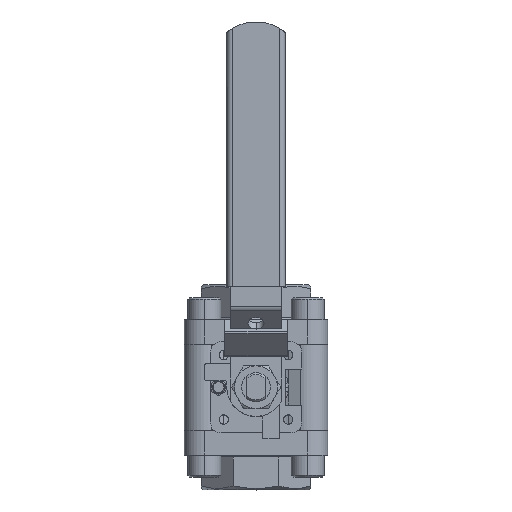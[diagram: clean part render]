
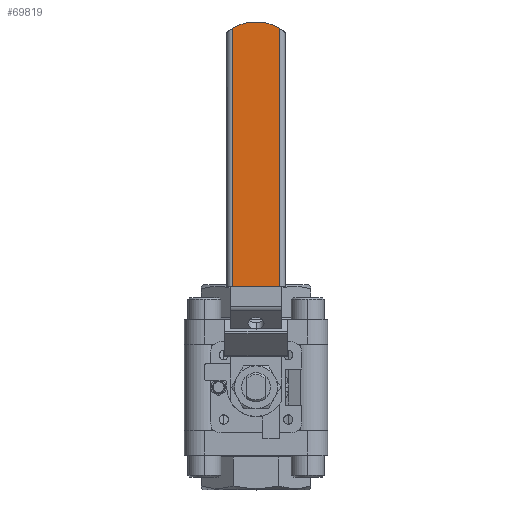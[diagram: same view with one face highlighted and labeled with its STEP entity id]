
A CAD part, top view. The second image highlights one B-rep face of the part: STEP entity #69819.
In plain terms, the highlighted planar face has unit normal (0, 0, 1).
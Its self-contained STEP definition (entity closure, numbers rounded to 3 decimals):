
#68215 = PLANE('',#68216);
#68216 = AXIS2_PLACEMENT_3D('',#68217,#68218,#68219);
#68217 = CARTESIAN_POINT('',(0.524,106.131,
    137.93));
#68218 = DIRECTION('',(0.,1.,0.));
#68219 = DIRECTION('',(-1.,0.,0.));
#68800 = CYLINDRICAL_SURFACE('',#68801,25.);
#68801 = AXIS2_PLACEMENT_3D('',#68802,#68803,#68804);
#68802 = CARTESIAN_POINT('',(-15.476,226.131,
    137.93));
#68803 = DIRECTION('',(0.,0.,1.));
#68804 = DIRECTION('',(-1.,0.,0.));
#68828 = CYLINDRICAL_SURFACE('',#68829,3.);
#68829 = AXIS2_PLACEMENT_3D('',#68830,#68831,#68832);
#68830 = CARTESIAN_POINT('',(-2.476,106.131,
    142.93));
#68831 = DIRECTION('',(0.,-1.,0.));
#68832 = DIRECTION('',(1.,0.,0.));
#69341 = CYLINDRICAL_SURFACE('',#69342,3.);
#69342 = AXIS2_PLACEMENT_3D('',#69343,#69344,#69345);
#69343 = CARTESIAN_POINT('',(-28.476,106.131,
    142.93));
#69344 = DIRECTION('',(0.,1.,0.));
#69345 = DIRECTION('',(-1.,0.,0.));
#69400 = VERTEX_POINT('',#69401);
#69401 = CARTESIAN_POINT('',(-2.476,106.131,
    145.93));
#69425 = VERTEX_POINT('',#69426);
#69426 = CARTESIAN_POINT('',(-2.476,247.485,
    145.93));
#69548 = EDGE_CURVE('',#69425,#69400,#69549,.T.);
#69549 = SURFACE_CURVE('',#69550,(#69554,#69561),.PCURVE_S1.);
#69550 = LINE('',#69551,#69552);
#69551 = CARTESIAN_POINT('',(-2.476,226.131,
    145.93));
#69552 = VECTOR('',#69553,1.);
#69553 = DIRECTION('',(0.,-1.,0.));
#69554 = PCURVE('',#68828,#69555);
#69555 = DEFINITIONAL_REPRESENTATION('',(#69556),#69560);
#69556 = LINE('',#69557,#69558);
#69557 = CARTESIAN_POINT('',(1.571,-120.));
#69558 = VECTOR('',#69559,1.);
#69559 = DIRECTION('',(0.,1.));
#69560 = ( GEOMETRIC_REPRESENTATION_CONTEXT(2) 
PARAMETRIC_REPRESENTATION_CONTEXT() REPRESENTATION_CONTEXT('2D SPACE',''
  ) );
#69561 = PCURVE('',#69562,#69567);
#69562 = PLANE('',#69563);
#69563 = AXIS2_PLACEMENT_3D('',#69564,#69565,#69566);
#69564 = CARTESIAN_POINT('',(-15.476,226.131,
    145.93));
#69565 = DIRECTION('',(0.,0.,-1.));
#69566 = DIRECTION('',(1.,0.,0.));
#69567 = DEFINITIONAL_REPRESENTATION('',(#69568),#69572);
#69568 = LINE('',#69569,#69570);
#69569 = CARTESIAN_POINT('',(13.,0.));
#69570 = VECTOR('',#69571,1.);
#69571 = DIRECTION('',(0.,1.));
#69572 = ( GEOMETRIC_REPRESENTATION_CONTEXT(2) 
PARAMETRIC_REPRESENTATION_CONTEXT() REPRESENTATION_CONTEXT('2D SPACE',''
  ) );
#69590 = EDGE_CURVE('',#69400,#69591,#69593,.T.);
#69591 = VERTEX_POINT('',#69592);
#69592 = CARTESIAN_POINT('',(-28.476,106.131,
    145.93));
#69593 = SURFACE_CURVE('',#69594,(#69598,#69605),.PCURVE_S1.);
#69594 = LINE('',#69595,#69596);
#69595 = CARTESIAN_POINT('',(-15.476,106.131,
    145.93));
#69596 = VECTOR('',#69597,1.);
#69597 = DIRECTION('',(-1.,0.,0.));
#69598 = PCURVE('',#68215,#69599);
#69599 = DEFINITIONAL_REPRESENTATION('',(#69600),#69604);
#69600 = LINE('',#69601,#69602);
#69601 = CARTESIAN_POINT('',(16.,8.));
#69602 = VECTOR('',#69603,1.);
#69603 = DIRECTION('',(1.,0.));
#69604 = ( GEOMETRIC_REPRESENTATION_CONTEXT(2) 
PARAMETRIC_REPRESENTATION_CONTEXT() REPRESENTATION_CONTEXT('2D SPACE',''
  ) );
#69605 = PCURVE('',#69562,#69606);
#69606 = DEFINITIONAL_REPRESENTATION('',(#69607),#69611);
#69607 = LINE('',#69608,#69609);
#69608 = CARTESIAN_POINT('',(0.,120.));
#69609 = VECTOR('',#69610,1.);
#69610 = DIRECTION('',(-1.,0.));
#69611 = ( GEOMETRIC_REPRESENTATION_CONTEXT(2) 
PARAMETRIC_REPRESENTATION_CONTEXT() REPRESENTATION_CONTEXT('2D SPACE',''
  ) );
#69642 = VERTEX_POINT('',#69643);
#69643 = CARTESIAN_POINT('',(-28.476,247.485,
    145.93));
#69767 = EDGE_CURVE('',#69591,#69642,#69768,.T.);
#69768 = SURFACE_CURVE('',#69769,(#69773,#69780),.PCURVE_S1.);
#69769 = LINE('',#69770,#69771);
#69770 = CARTESIAN_POINT('',(-28.476,226.131,
    145.93));
#69771 = VECTOR('',#69772,1.);
#69772 = DIRECTION('',(0.,1.,0.));
#69773 = PCURVE('',#69341,#69774);
#69774 = DEFINITIONAL_REPRESENTATION('',(#69775),#69779);
#69775 = LINE('',#69776,#69777);
#69776 = CARTESIAN_POINT('',(1.571,120.));
#69777 = VECTOR('',#69778,1.);
#69778 = DIRECTION('',(0.,1.));
#69779 = ( GEOMETRIC_REPRESENTATION_CONTEXT(2) 
PARAMETRIC_REPRESENTATION_CONTEXT() REPRESENTATION_CONTEXT('2D SPACE',''
  ) );
#69780 = PCURVE('',#69562,#69781);
#69781 = DEFINITIONAL_REPRESENTATION('',(#69782),#69786);
#69782 = LINE('',#69783,#69784);
#69783 = CARTESIAN_POINT('',(-13.,0.));
#69784 = VECTOR('',#69785,1.);
#69785 = DIRECTION('',(0.,-1.));
#69786 = ( GEOMETRIC_REPRESENTATION_CONTEXT(2) 
PARAMETRIC_REPRESENTATION_CONTEXT() REPRESENTATION_CONTEXT('2D SPACE',''
  ) );
#69791 = EDGE_CURVE('',#69642,#69425,#69792,.T.);
#69792 = SURFACE_CURVE('',#69793,(#69798,#69805),.PCURVE_S1.);
#69793 = CIRCLE('',#69794,25.);
#69794 = AXIS2_PLACEMENT_3D('',#69795,#69796,#69797);
#69795 = CARTESIAN_POINT('',(-15.476,226.131,
    145.93));
#69796 = DIRECTION('',(0.,0.,-1.));
#69797 = DIRECTION('',(-1.,0.,0.));
#69798 = PCURVE('',#68800,#69799);
#69799 = DEFINITIONAL_REPRESENTATION('',(#69800),#69804);
#69800 = LINE('',#69801,#69802);
#69801 = CARTESIAN_POINT('',(6.283,8.));
#69802 = VECTOR('',#69803,1.);
#69803 = DIRECTION('',(-1.,0.));
#69804 = ( GEOMETRIC_REPRESENTATION_CONTEXT(2) 
PARAMETRIC_REPRESENTATION_CONTEXT() REPRESENTATION_CONTEXT('2D SPACE',''
  ) );
#69805 = PCURVE('',#69562,#69806);
#69806 = DEFINITIONAL_REPRESENTATION('',(#69807),#69811);
#69807 = CIRCLE('',#69808,25.);
#69808 = AXIS2_PLACEMENT_2D('',#69809,#69810);
#69809 = CARTESIAN_POINT('',(0.,0.));
#69810 = DIRECTION('',(-1.,0.));
#69811 = ( GEOMETRIC_REPRESENTATION_CONTEXT(2) 
PARAMETRIC_REPRESENTATION_CONTEXT() REPRESENTATION_CONTEXT('2D SPACE',''
  ) );
#69819 = ADVANCED_FACE('',(#69820),#69562,.F.);
#69820 = FACE_BOUND('',#69821,.T.);
#69821 = EDGE_LOOP('',(#69822,#69823,#69824,#69825));
#69822 = ORIENTED_EDGE('',*,*,#69767,.F.);
#69823 = ORIENTED_EDGE('',*,*,#69590,.F.);
#69824 = ORIENTED_EDGE('',*,*,#69548,.F.);
#69825 = ORIENTED_EDGE('',*,*,#69791,.F.);
